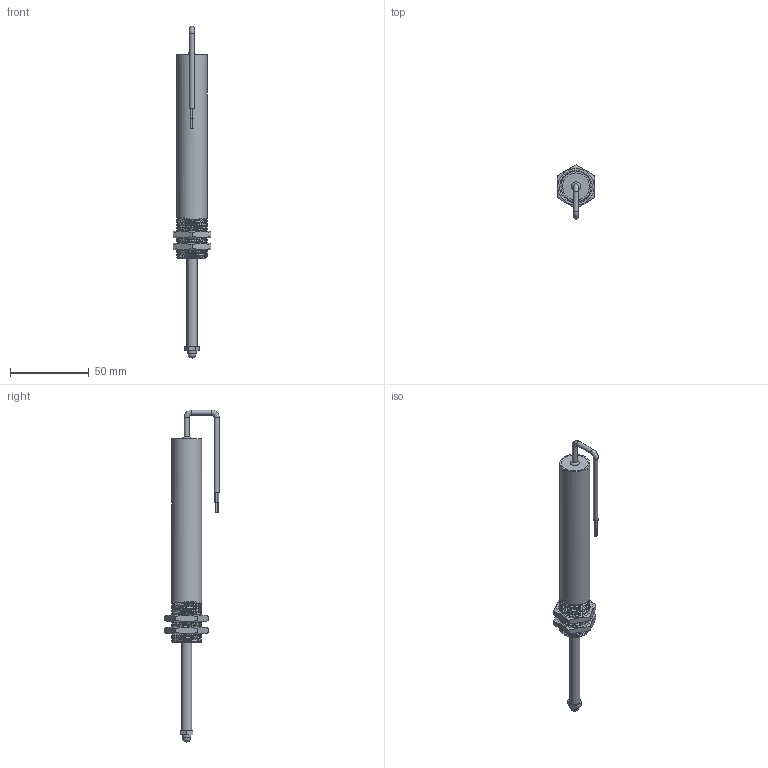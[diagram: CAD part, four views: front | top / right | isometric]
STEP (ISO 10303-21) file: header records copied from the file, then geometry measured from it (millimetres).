
FILE_DESCRIPTION(/* description */ (''),/* implementation_level */ '2;1');
FILE_NAME(/* name */ 'ILPS-18S-050-A-00-YY-Z.stp',/* time_stamp */ '2026-01-27T15:19:27-05:00',/* author */ ('wingm'),/* organization */ (''),/* preprocessor_version */ 'ST-DEVELOPER v20.1',/* originating_system */ 'Autodesk Inventor 2026',/* authorisation */ '');
FILE_SCHEMA (('AUTOMOTIVE_DESIGN { 1 0 10303 214 3 1 1 }'));
Length unit declared in the file: inch
Products named in the file (9): Assembly1; Body; End Cap; Shaft; Lining; Hex Nut; End Cap_1; #8552; ILPS-19-XXX-01 Cable
Assembly tree (9 placements, depth 2):
  Assembly1
    Body
    End Cap
    Shaft
    Lining
    Hex Nut  x2
    End Cap_1
    #8552
    ILPS-19-XXX-01 Cable
Bounding box: 24 x 34.49 x 210.24 mm (x, y, z)
Volume: 14313.3 mm3; surface area: 28383.1 mm2
Topology: 11 solids, 11 shells, 133 faces, 287 edges, 186 vertices
Faces by surface type: cylinder 59, plane 50, bspline 11, cone 10, torus 2, sphere 1
Full cylindrical faces by diameter (mm): 0.635 x4, 0.762 x4, 1.905 x1, 2.845 x3, 3.175 x5, 5.08 x1, 6.35 x2, 6.858 x2, 17.069 x3, 19.05 x29
Entity records: 8535 total; most frequent: CARTESIAN_POINT 5746, ORIENTED_EDGE 478, DIRECTION 468, EDGE_CURVE 239, AXIS2_PLACEMENT_3D 191, VERTEX_POINT 156, EDGE_LOOP 137, FACE_OUTER_BOUND 114
